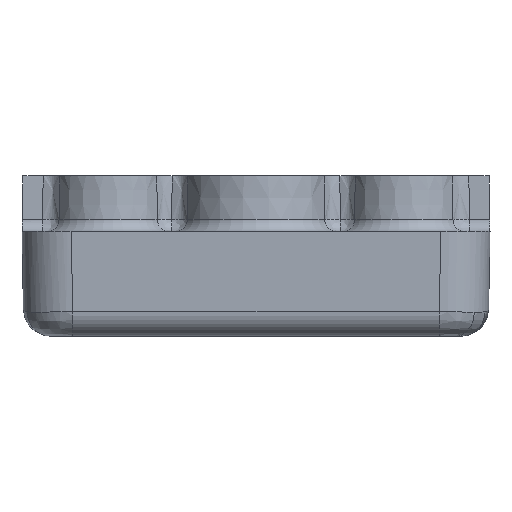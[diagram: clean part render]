
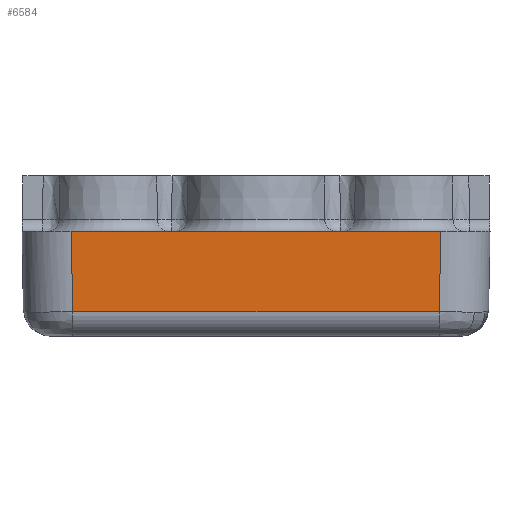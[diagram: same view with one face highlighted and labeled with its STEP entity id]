
A CAD part, front view. The second image highlights one B-rep face of the part: STEP entity #6584.
In plain terms, the highlighted planar face has unit normal (0, -1, -0.018).
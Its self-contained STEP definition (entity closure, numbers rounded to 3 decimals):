
#118 = VECTOR ( 'NONE', #4399, 1000. ) ;
#234 = VECTOR ( 'NONE', #6313, 1000. ) ;
#242 = DIRECTION ( 'NONE',  ( 0., -1., -0.017 ) ) ;
#390 = FACE_OUTER_BOUND ( 'NONE', #5584, .T. ) ;
#516 = AXIS2_PLACEMENT_3D ( 'NONE', #3541, #242, #4102 ) ;
#565 = VERTEX_POINT ( 'NONE', #5885 ) ;
#1091 = CARTESIAN_POINT ( 'NONE',  ( -10.997, -14.997, 3.308 ) ) ;
#1323 = PLANE ( 'NONE',  #516 ) ;
#1383 = VECTOR ( 'NONE', #3399, 1000. ) ;
#1454 = ORIENTED_EDGE ( 'NONE', *, *, #4214, .T. ) ;
#1867 = CARTESIAN_POINT ( 'NONE',  ( 19.002, -15.001, 3.57 ) ) ;
#1896 = EDGE_CURVE ( 'NONE', #5376, #565, #3906, .T. ) ;
#1953 = VERTEX_POINT ( 'NONE', #6650 ) ;
#2033 = ORIENTED_EDGE ( 'NONE', *, *, #1896, .T. ) ;
#2357 = VERTEX_POINT ( 'NONE', #5444 ) ;
#2514 = CARTESIAN_POINT ( 'NONE',  ( 0., -15., 3.5 ) ) ;
#2972 = ORIENTED_EDGE ( 'NONE', *, *, #3998, .T. ) ;
#3075 = DIRECTION ( 'NONE',  ( -1., 0., 0. ) ) ;
#3282 = LINE ( 'NONE', #1867, #234 ) ;
#3399 = DIRECTION ( 'NONE',  ( 1., 0., 0. ) ) ;
#3541 = CARTESIAN_POINT ( 'NONE',  ( 0., -15., 3.5 ) ) ;
#3568 = EDGE_CURVE ( 'NONE', #2357, #1953, #3282, .T. ) ;
#3892 = LINE ( 'NONE', #6722, #1383 ) ;
#3906 = LINE ( 'NONE', #1091, #118 ) ;
#3998 = EDGE_CURVE ( 'NONE', #565, #2357, #3892, .T. ) ;
#4102 = DIRECTION ( 'NONE',  ( 0., 0.017, -1. ) ) ;
#4214 = EDGE_CURVE ( 'NONE', #1953, #5376, #4750, .T. ) ;
#4399 = DIRECTION ( 'NONE',  ( 0.017, 0.017, -1. ) ) ;
#4750 = LINE ( 'NONE', #2514, #5322 ) ;
#5322 = VECTOR ( 'NONE', #3075, 1000. ) ;
#5376 = VERTEX_POINT ( 'NONE', #5576 ) ;
#5444 = CARTESIAN_POINT ( 'NONE',  ( 18.887, -14.886, -3.035 ) ) ;
#5576 = CARTESIAN_POINT ( 'NONE',  ( -11.001, -15., 3.5 ) ) ;
#5584 = EDGE_LOOP ( 'NONE', ( #2033, #2972, #6620, #1454 ) ) ;
#5885 = CARTESIAN_POINT ( 'NONE',  ( -10.887, -14.886, -3.035 ) ) ;
#6313 = DIRECTION ( 'NONE',  ( 0.017, -0.017, 1. ) ) ;
#6584 = ADVANCED_FACE ( 'NONE', ( #390 ), #1323, .T. ) ;
#6620 = ORIENTED_EDGE ( 'NONE', *, *, #3568, .T. ) ;
#6650 = CARTESIAN_POINT ( 'NONE',  ( 19.001, -15., 3.5 ) ) ;
#6722 = CARTESIAN_POINT ( 'NONE',  ( 18.852, -14.886, -3.035 ) ) ;
